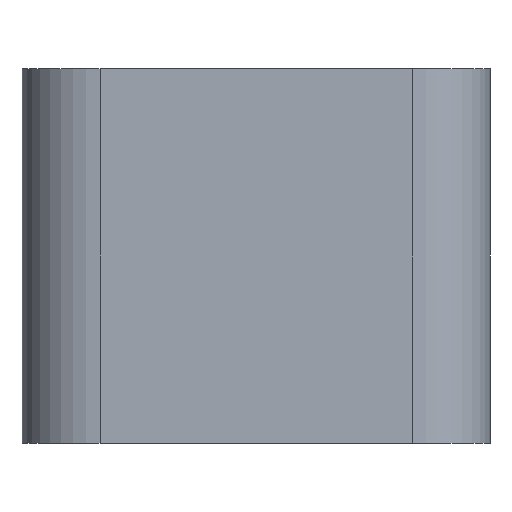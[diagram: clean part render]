
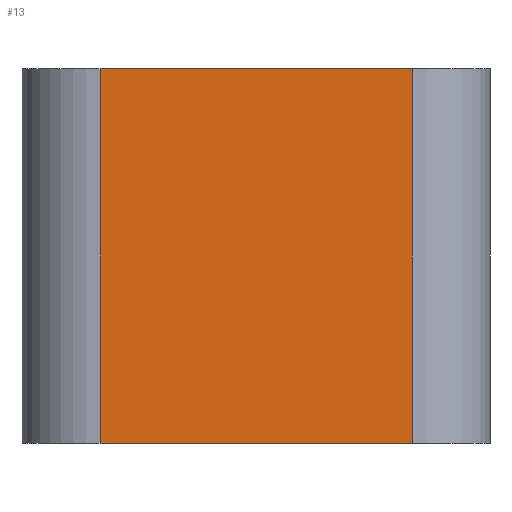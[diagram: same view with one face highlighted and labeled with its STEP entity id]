
A CAD part, front view. The second image highlights one B-rep face of the part: STEP entity #13.
In plain terms, the highlighted planar face has unit normal (0, -1, 0).
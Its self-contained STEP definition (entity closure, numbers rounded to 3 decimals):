
#13 = ADVANCED_FACE ( 'NONE', ( #48 ), #304, .F. ) ;
#17 = VECTOR ( 'NONE', #37, 1000. ) ;
#18 = CARTESIAN_POINT ( 'NONE',  ( -15., -30., 24. ) ) ;
#27 = VERTEX_POINT ( 'NONE', #339 ) ;
#34 = LINE ( 'NONE', #323, #17 ) ;
#37 = DIRECTION ( 'NONE',  ( 1., 0., 0. ) ) ;
#42 = LINE ( 'NONE', #167, #98 ) ;
#48 = FACE_OUTER_BOUND ( 'NONE', #246, .T. ) ;
#52 = AXIS2_PLACEMENT_3D ( 'NONE', #18, #205, #272 ) ;
#60 = ORIENTED_EDGE ( 'NONE', *, *, #201, .T. ) ;
#91 = LINE ( 'NONE', #278, #301 ) ;
#98 = VECTOR ( 'NONE', #392, 1000. ) ;
#99 = CARTESIAN_POINT ( 'NONE',  ( 10., -30., 0. ) ) ;
#139 = CARTESIAN_POINT ( 'NONE',  ( 10., -30., 24. ) ) ;
#145 = VERTEX_POINT ( 'NONE', #99 ) ;
#154 = EDGE_CURVE ( 'NONE', #27, #210, #386, .T. ) ;
#158 = DIRECTION ( 'NONE',  ( 0., 0., -1. ) ) ;
#167 = CARTESIAN_POINT ( 'NONE',  ( -15., -30., 24. ) ) ;
#186 = DIRECTION ( 'NONE',  ( 0., 0., 1. ) ) ;
#201 = EDGE_CURVE ( 'NONE', #210, #145, #34, .T. ) ;
#205 = DIRECTION ( 'NONE',  ( 0., 1., 0. ) ) ;
#210 = VERTEX_POINT ( 'NONE', #267 ) ;
#217 = CARTESIAN_POINT ( 'NONE',  ( -10., -30., 24. ) ) ;
#221 = VECTOR ( 'NONE', #158, 1000. ) ;
#246 = EDGE_LOOP ( 'NONE', ( #60, #291, #315, #387 ) ) ;
#267 = CARTESIAN_POINT ( 'NONE',  ( -10., -30., 0. ) ) ;
#272 = DIRECTION ( 'NONE',  ( 0., 0., 1. ) ) ;
#278 = CARTESIAN_POINT ( 'NONE',  ( 10., -30., 24. ) ) ;
#291 = ORIENTED_EDGE ( 'NONE', *, *, #381, .T. ) ;
#295 = VERTEX_POINT ( 'NONE', #139 ) ;
#301 = VECTOR ( 'NONE', #186, 1000. ) ;
#304 = PLANE ( 'NONE',  #52 ) ;
#315 = ORIENTED_EDGE ( 'NONE', *, *, #349, .F. ) ;
#323 = CARTESIAN_POINT ( 'NONE',  ( -15., -30., 0. ) ) ;
#339 = CARTESIAN_POINT ( 'NONE',  ( -10., -30., 24. ) ) ;
#349 = EDGE_CURVE ( 'NONE', #27, #295, #42, .T. ) ;
#381 = EDGE_CURVE ( 'NONE', #145, #295, #91, .T. ) ;
#386 = LINE ( 'NONE', #217, #221 ) ;
#387 = ORIENTED_EDGE ( 'NONE', *, *, #154, .T. ) ;
#392 = DIRECTION ( 'NONE',  ( 1., 0., 0. ) ) ;
